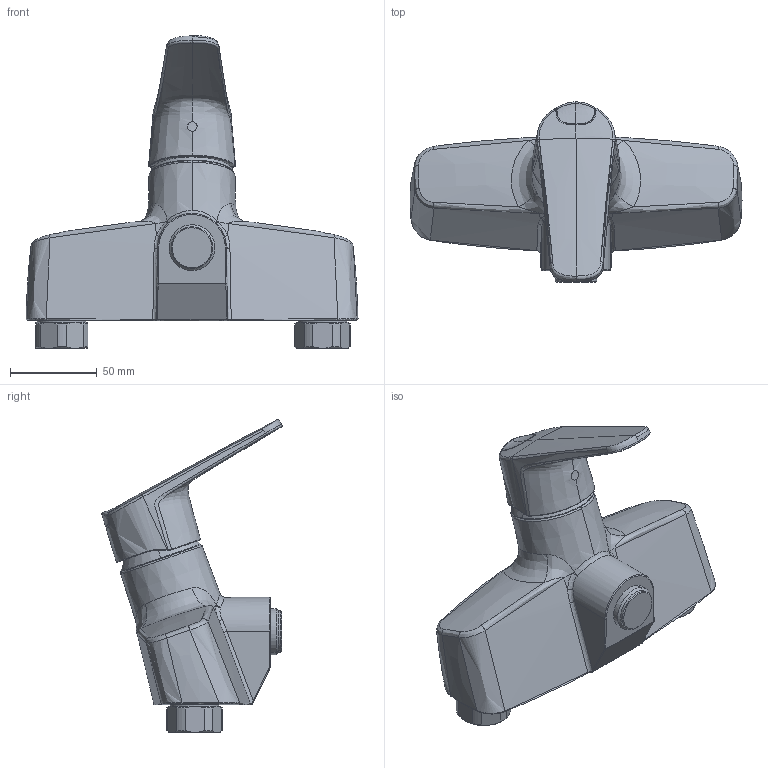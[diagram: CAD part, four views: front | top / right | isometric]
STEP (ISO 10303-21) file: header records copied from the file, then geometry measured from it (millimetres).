
FILE_DESCRIPTION (( 'STEP AP203' ), '1' );
FILE_NAME ('1870G(2018).STEP', '2019-06-03T06:50:01', ( '' ), ( '' ), 'SwSTEP 2.0', 'SolidWorks 2016', '' );
FILE_SCHEMA (( 'CONFIG_CONTROL_DESIGN' ));
Length unit declared in the file: millimetre
Products named in the file (1): 1870G(2018)
Bounding box: 191.05 x 103.74 x 179.9 mm (x, y, z)
Volume: 660683.2 mm3; surface area: 65576.8 mm2
Topology: 1 solids, 1 shells, 224 faces, 557 edges, 345 vertices
Faces by surface type: bspline 119, cylinder 41, cone 30, plane 29, torus 4, sphere 1
Entity records: 27272 total; most frequent: CARTESIAN_POINT 22983, ORIENTED_EDGE 1114, EDGE_CURVE 557, DIRECTION 533, VERTEX_POINT 345, B_SPLINE_CURVE_WITH_KNOTS 345, AXIS2_PLACEMENT_3D 238, EDGE_LOOP 234
